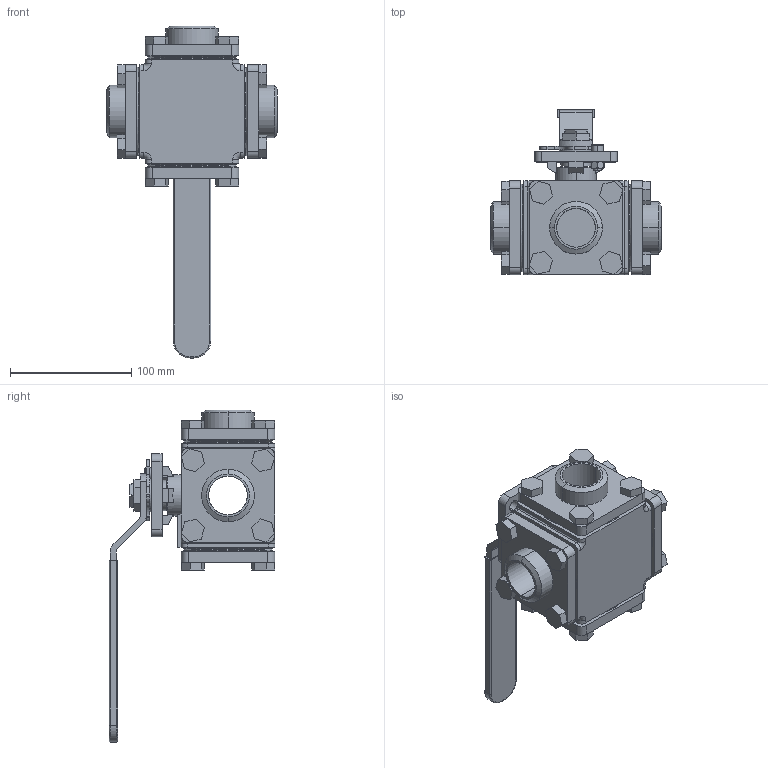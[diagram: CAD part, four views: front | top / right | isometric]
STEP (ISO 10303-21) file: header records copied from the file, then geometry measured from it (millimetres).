
FILE_DESCRIPTION (( 'STEP AP214' ), '1' );
FILE_NAME ('S350D DN32 BW HB.step', '2010-10-22T12:11:33', ( '' ), ( '' ), 'SwSTEP 2.0', 'SolidWorks 2010', '' );
FILE_SCHEMA (( 'AUTOMOTIVE_DESIGN' ));
Length unit declared in the file: millimetre
Products named in the file (7): S350D KK DN32 PN50; S350D Hendel DN40; DIN 912 M6 x 16 --- 16N_DIN 912 M6 x 16 --- 16N; Hexagon Nut ISO 4032 - M6 - D - N_Hexagon Nut ISO 4032 - M6 - D - N; S350D Blindflens DN32; S350D Buttweld DN32; S350D DN32 BW HB
Assembly tree (8 placements, depth 2):
  S350D DN32 BW HB
    DIN 912 M6 x 16 --- 16N_DIN 912 M6 x 16 --- 16N
    S350D Buttweld DN32  x3
    Hexagon Nut ISO 4032 - M6 - D - N_Hexagon Nut ISO 4032 - M6 - D - N
    S350D Hendel DN40
    S350D Blindflens DN32
    S350D KK DN32 PN50
Bounding box: 141.2 x 137 x 274.35 mm (x, y, z)
Volume: 843506.4 mm3; surface area: 168072.4 mm2
Topology: 8 solids, 9 shells, 538 faces, 1340 edges, 847 vertices
Faces by surface type: plane 333, cylinder 147, cone 42, torus 16
Entity records: 13618 total; most frequent: CARTESIAN_POINT 2392, DIRECTION 2320, ORIENTED_EDGE 2188, EDGE_CURVE 1094, AXIS2_PLACEMENT_3D 815, VECTOR 690, LINE 690, VERTEX_POINT 687
